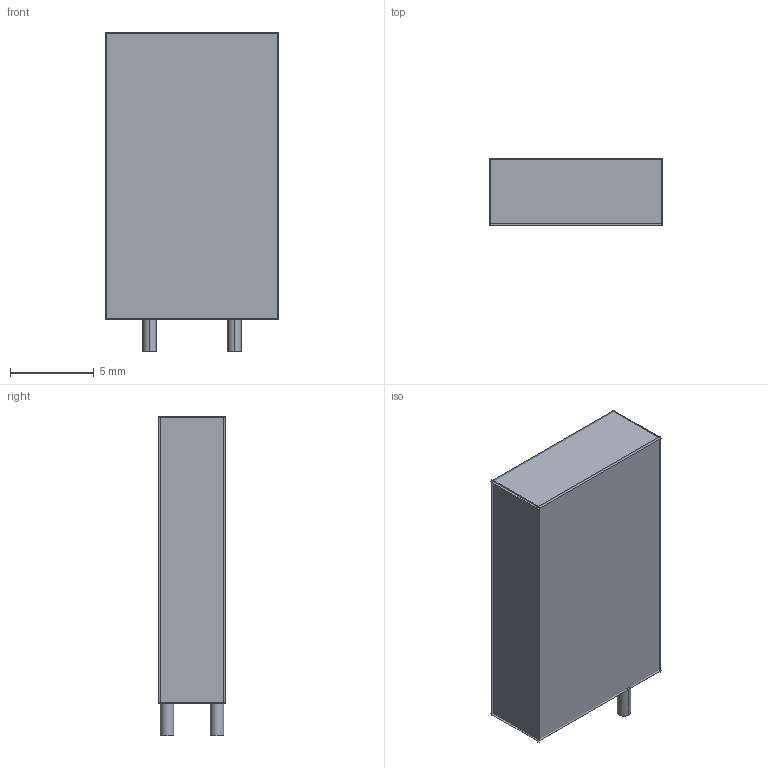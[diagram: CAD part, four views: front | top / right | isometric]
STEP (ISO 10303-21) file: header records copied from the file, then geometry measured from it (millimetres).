
FILE_DESCRIPTION (( 'STEP AP214' ), '1' );
FILE_NAME ( 'FUSRRO508W81L1020T381H1700.STEP', '2021-10-06T06:48:59', ( '' ), ( '' ), '', '©2017 PCB Libraries, Inc.', '' );
FILE_SCHEMA (( 'AUTOMOTIVE_DESIGN' ));
Length unit declared in the file: millimetre
Products named in the file (1): FUSRRO508W81L1020T381H1700
Bounding box: 10.4 x 4.01 x 19.1 mm (x, y, z)
Surface area: 591.4 mm2
Topology: 2 solids, 8 shells, 14 faces, 36 edges, 32 vertices
Faces by surface type: plane 10, cylinder 4
Entity records: 947 total; most frequent: DIRECTION 162, CARTESIAN_POINT 127, ORIENTED_EDGE 120, AXIS2_PLACEMENT_3D 67, EDGE_CURVE 60, STYLED_ITEM 38, PRESENTATION_LAYER_ASSIGNMENT 38, MECHANICAL_DESIGN_GEOMETRIC_PRESENTATION_REPRESENTATION 38
